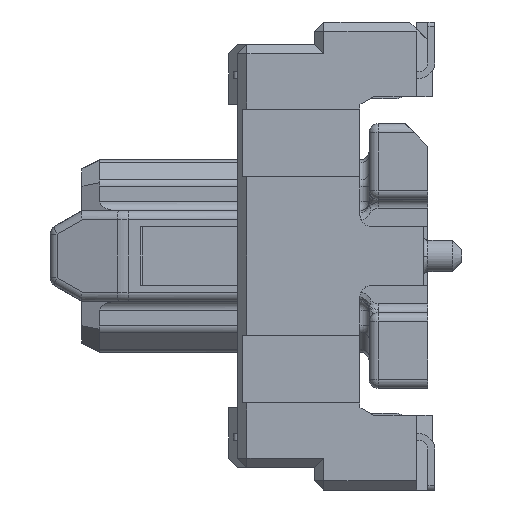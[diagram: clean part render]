
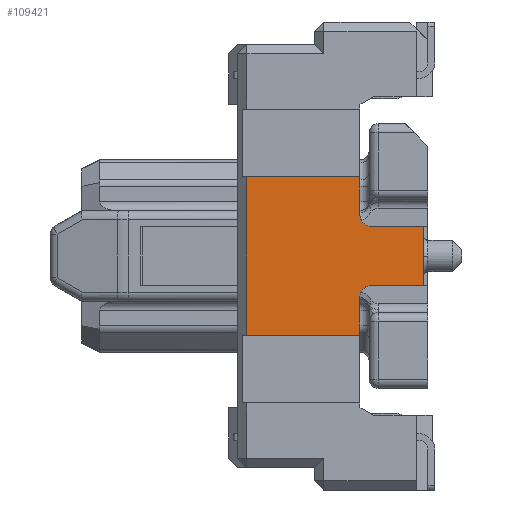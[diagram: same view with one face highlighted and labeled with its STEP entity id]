
A CAD part, left-side view. The second image highlights one B-rep face of the part: STEP entity #109421.
In plain terms, the highlighted planar face has unit normal (-1, 0, 0).
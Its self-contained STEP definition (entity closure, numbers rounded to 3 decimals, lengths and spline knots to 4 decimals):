
#2169 = DIRECTION ( 'NONE',  ( 0., 0., 1. ) ) ;
#3283 = VECTOR ( 'NONE', #3299, 1000. ) ;
#3299 = DIRECTION ( 'NONE',  ( 0., 1., 0. ) ) ;
#4145 = CARTESIAN_POINT ( 'NONE',  ( -58.1407, 23.9658, -0.65 ) ) ;
#5335 = DIRECTION ( 'NONE',  ( 0., -1., 0. ) ) ;
#6847 = CARTESIAN_POINT ( 'NONE',  ( -58.1407, 19.8658, -0.65 ) ) ;
#7779 = VERTEX_POINT ( 'NONE', #82614 ) ;
#10214 = CARTESIAN_POINT ( 'NONE',  ( -58.1407, 21.2658, 1.75 ) ) ;
#10267 = CARTESIAN_POINT ( 'NONE',  ( -58.1407, 19.8658, 0.65 ) ) ;
#26360 = VECTOR ( 'NONE', #112694, 1000. ) ;
#27812 = AXIS2_PLACEMENT_3D ( 'NONE', #124162, #109802, #50604 ) ;
#30167 = CARTESIAN_POINT ( 'NONE',  ( -58.1407, 21.2658, -0.9 ) ) ;
#30538 = CARTESIAN_POINT ( 'NONE',  ( -58.1407, 23.9658, 0.65 ) ) ;
#35650 = CARTESIAN_POINT ( 'NONE',  ( -58.1407, 21.0158, -0.9 ) ) ;
#36554 = ORIENTED_EDGE ( 'NONE', *, *, #157321, .F. ) ;
#36568 = CARTESIAN_POINT ( 'NONE',  ( -58.1407, 21.2658, -1.75 ) ) ;
#38009 = CARTESIAN_POINT ( 'NONE',  ( -58.1407, 23.9658, -5.175 ) ) ;
#41192 = EDGE_CURVE ( 'NONE', #46072, #96790, #79608, .T. ) ;
#43239 = CARTESIAN_POINT ( 'NONE',  ( -58.1407, 21.2658, 0.9 ) ) ;
#43306 = LINE ( 'NONE', #30538, #48367 ) ;
#45989 = VERTEX_POINT ( 'NONE', #6847 ) ;
#46072 = VERTEX_POINT ( 'NONE', #58728 ) ;
#48367 = VECTOR ( 'NONE', #117666, 1000. ) ;
#49852 = ORIENTED_EDGE ( 'NONE', *, *, #128408, .T. ) ;
#49862 = VERTEX_POINT ( 'NONE', #52973 ) ;
#50604 = DIRECTION ( 'NONE',  ( 0., 0., 1. ) ) ;
#52681 = LINE ( 'NONE', #62301, #26360 ) ;
#52973 = CARTESIAN_POINT ( 'NONE',  ( -58.1407, 23.7658, -1.75 ) ) ;
#53629 = AXIS2_PLACEMENT_3D ( 'NONE', #38009, #122780, #61952 ) ;
#54465 = DIRECTION ( 'NONE',  ( 0., 1., 0. ) ) ;
#55144 = EDGE_CURVE ( 'NONE', #77267, #128252, #145669, .T. ) ;
#55433 = ORIENTED_EDGE ( 'NONE', *, *, #148051, .T. ) ;
#56000 = LINE ( 'NONE', #131156, #93637 ) ;
#56782 = DIRECTION ( 'NONE',  ( 0., 0., 1. ) ) ;
#58728 = CARTESIAN_POINT ( 'NONE',  ( -58.1407, 23.7658, 1.75 ) ) ;
#58851 = DIRECTION ( 'NONE',  ( -1., 0., 0. ) ) ;
#61409 = AXIS2_PLACEMENT_3D ( 'NONE', #35650, #58851, #83613 ) ;
#61952 = DIRECTION ( 'NONE',  ( 0., 1., 0. ) ) ;
#62301 = CARTESIAN_POINT ( 'NONE',  ( -58.1407, 19.8658, -5.175 ) ) ;
#71131 = VECTOR ( 'NONE', #138823, 1000. ) ;
#74170 = ORIENTED_EDGE ( 'NONE', *, *, #55144, .F. ) ;
#75639 = LINE ( 'NONE', #111665, #99853 ) ;
#77056 = VERTEX_POINT ( 'NONE', #43239 ) ;
#77267 = VERTEX_POINT ( 'NONE', #109409 ) ;
#77570 = CARTESIAN_POINT ( 'NONE',  ( -58.1407, 23.9658, -1.75 ) ) ;
#79608 = LINE ( 'NONE', #90040, #126740 ) ;
#82614 = CARTESIAN_POINT ( 'NONE',  ( -58.1407, 21.0158, 0.65 ) ) ;
#83613 = DIRECTION ( 'NONE',  ( 0., 0., 1. ) ) ;
#84172 = EDGE_CURVE ( 'NONE', #90211, #49862, #127963, .T. ) ;
#84892 = ORIENTED_EDGE ( 'NONE', *, *, #41192, .F. ) ;
#90040 = CARTESIAN_POINT ( 'NONE',  ( -58.1407, 23.9658, 1.75 ) ) ;
#90211 = VERTEX_POINT ( 'NONE', #36568 ) ;
#93637 = VECTOR ( 'NONE', #56782, 1000. ) ;
#96790 = VERTEX_POINT ( 'NONE', #10214 ) ;
#96986 = ORIENTED_EDGE ( 'NONE', *, *, #84172, .F. ) ;
#99853 = VECTOR ( 'NONE', #2169, 1000. ) ;
#107743 = VERTEX_POINT ( 'NONE', #10267 ) ;
#109409 = CARTESIAN_POINT ( 'NONE',  ( -58.1407, 21.0158, -0.65 ) ) ;
#109421 = ADVANCED_FACE ( 'NONE', ( #136346 ), #109979, .F. ) ;
#109802 = DIRECTION ( 'NONE',  ( 1., 0., 0. ) ) ;
#109979 = PLANE ( 'NONE',  #53629 ) ;
#111665 = CARTESIAN_POINT ( 'NONE',  ( -58.1407, 23.7658, 0. ) ) ;
#112694 = DIRECTION ( 'NONE',  ( 0., 0., -1. ) ) ;
#113360 = ORIENTED_EDGE ( 'NONE', *, *, #149756, .F. ) ;
#113674 = LINE ( 'NONE', #4145, #134922 ) ;
#114054 = LINE ( 'NONE', #126063, #71131 ) ;
#114753 = EDGE_CURVE ( 'NONE', #107743, #45989, #52681, .T. ) ;
#117666 = DIRECTION ( 'NONE',  ( 0., -1., 0. ) ) ;
#118949 = EDGE_CURVE ( 'NONE', #49862, #46072, #75639, .T. ) ;
#122780 = DIRECTION ( 'NONE',  ( 1., 0., 0. ) ) ;
#124162 = CARTESIAN_POINT ( 'NONE',  ( -58.1407, 21.0158, 0.9 ) ) ;
#126063 = CARTESIAN_POINT ( 'NONE',  ( -58.1407, 21.2658, -5.175 ) ) ;
#126740 = VECTOR ( 'NONE', #5335, 1000. ) ;
#127963 = LINE ( 'NONE', #77570, #3283 ) ;
#128252 = VERTEX_POINT ( 'NONE', #30167 ) ;
#128408 = EDGE_CURVE ( 'NONE', #7779, #77056, #145336, .T. ) ;
#131156 = CARTESIAN_POINT ( 'NONE',  ( -58.1407, 21.2658, -3.525 ) ) ;
#134922 = VECTOR ( 'NONE', #54465, 1000. ) ;
#136346 = FACE_OUTER_BOUND ( 'NONE', #138680, .T. ) ;
#138079 = EDGE_CURVE ( 'NONE', #45989, #77267, #113674, .T. ) ;
#138680 = EDGE_LOOP ( 'NONE', ( #55433, #74170, #157475, #157825, #36554, #49852, #113360, #84892, #147703, #96986 ) ) ;
#138823 = DIRECTION ( 'NONE',  ( 0., 0., -1. ) ) ;
#145336 = CIRCLE ( 'NONE', #27812, 0.25 ) ;
#145669 = CIRCLE ( 'NONE', #61409, 0.25 ) ;
#147703 = ORIENTED_EDGE ( 'NONE', *, *, #118949, .F. ) ;
#148051 = EDGE_CURVE ( 'NONE', #90211, #128252, #56000, .T. ) ;
#149756 = EDGE_CURVE ( 'NONE', #96790, #77056, #114054, .T. ) ;
#157321 = EDGE_CURVE ( 'NONE', #7779, #107743, #43306, .T. ) ;
#157475 = ORIENTED_EDGE ( 'NONE', *, *, #138079, .F. ) ;
#157825 = ORIENTED_EDGE ( 'NONE', *, *, #114753, .F. ) ;
